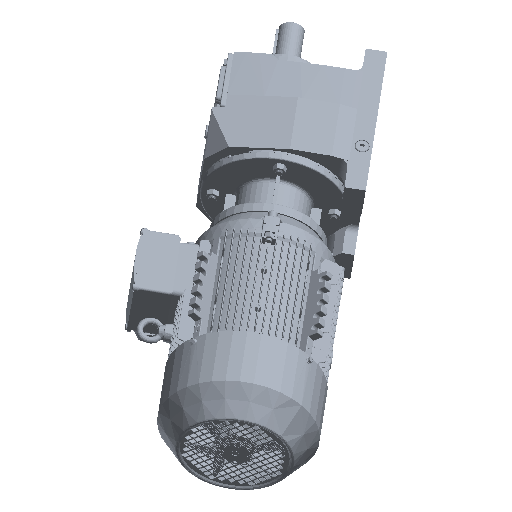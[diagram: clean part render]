
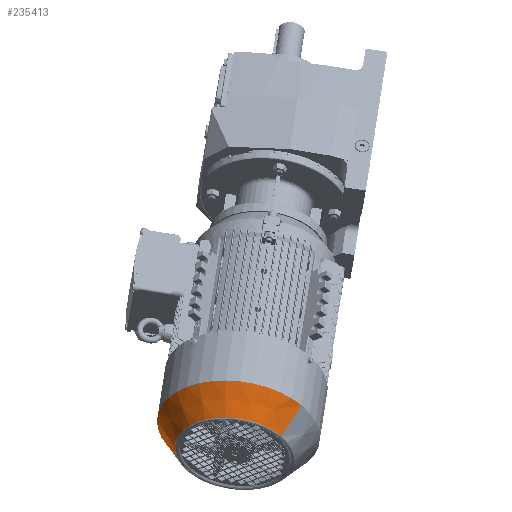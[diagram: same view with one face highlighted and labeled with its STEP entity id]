
A CAD part, left-side view. The second image highlights one B-rep face of the part: STEP entity #235413.
In plain terms, the highlighted conical face has half-angle 35.483 degrees and reference radius 110 mm.
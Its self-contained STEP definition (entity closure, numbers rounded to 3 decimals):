
#6010 = ORIENTED_EDGE ( 'NONE', *, *, #57429, .F. ) ;
#6018 = ORIENTED_EDGE ( 'NONE', *, *, #156030, .F. ) ;
#6051 = ORIENTED_EDGE ( 'NONE', *, *, #156004, .T. ) ;
#9792 = ORIENTED_EDGE ( 'NONE', *, *, #155665, .T. ) ;
#28481 = VERTEX_POINT ( 'NONE', #85668 ) ;
#28488 = VERTEX_POINT ( 'NONE', #85723 ) ;
#28493 = VERTEX_POINT ( 'NONE', #85741 ) ;
#28533 = VERTEX_POINT ( 'NONE', #85776 ) ;
#57429 = EDGE_CURVE ( 'NONE', #28493, #28481, #130844, .T. ) ;
#85668 = CARTESIAN_POINT ( 'NONE',  ( 83., 0., 110. ) ) ;
#85723 = CARTESIAN_POINT ( 'NONE',  ( 123.322, 0., 81.257 ) ) ;
#85741 = CARTESIAN_POINT ( 'NONE',  ( 83., 0., -110. ) ) ;
#85776 = CARTESIAN_POINT ( 'NONE',  ( 123.322, 0., -81.257 ) ) ;
#95278 = AXIS2_PLACEMENT_3D ( 'NONE', #156883, #156723, #156720 ) ;
#111185 = DIRECTION ( 'NONE',  ( -1., 0., 0. ) ) ;
#111200 = DIRECTION ( 'NONE',  ( 0., 0., 1. ) ) ;
#111227 = CARTESIAN_POINT ( 'NONE',  ( 83., 0., 0. ) ) ;
#112248 = CIRCLE ( 'NONE', #186553, 81.257 ) ;
#112609 = LINE ( 'NONE', #119519, #112625 ) ;
#112625 = VECTOR ( 'NONE', #119574, 1000. ) ;
#112672 = LINE ( 'NONE', #120011, #112684 ) ;
#112684 = VECTOR ( 'NONE', #119794, 1000. ) ;
#113257 = DIRECTION ( 'NONE',  ( 0., 0., 1. ) ) ;
#113261 = DIRECTION ( 'NONE',  ( -1., 0., 0. ) ) ;
#113291 = CARTESIAN_POINT ( 'NONE',  ( 123.322, 0., 0. ) ) ;
#119519 = CARTESIAN_POINT ( 'NONE',  ( 83., 0., 110. ) ) ;
#119574 = DIRECTION ( 'NONE',  ( -0.814, 0., 0.58 ) ) ;
#119794 = DIRECTION ( 'NONE',  ( -0.814, 0., -0.58 ) ) ;
#120011 = CARTESIAN_POINT ( 'NONE',  ( 83., 0., -110. ) ) ;
#122202 = FACE_OUTER_BOUND ( 'NONE', #162651, .T. ) ;
#122265 = CONICAL_SURFACE ( 'NONE', #225249, 110., 0.619 ) ;
#130844 = CIRCLE ( 'NONE', #95278, 110. ) ;
#155665 = EDGE_CURVE ( 'NONE', #28533, #28488, #112248, .T. ) ;
#156004 = EDGE_CURVE ( 'NONE', #28488, #28481, #112609, .T. ) ;
#156030 = EDGE_CURVE ( 'NONE', #28533, #28493, #112672, .T. ) ;
#156720 = DIRECTION ( 'NONE',  ( 0., 0., 1. ) ) ;
#156723 = DIRECTION ( 'NONE',  ( -1., 0., 0. ) ) ;
#156883 = CARTESIAN_POINT ( 'NONE',  ( 83., 0., 0. ) ) ;
#162651 = EDGE_LOOP ( 'NONE', ( #6018, #9792, #6051, #6010 ) ) ;
#186553 = AXIS2_PLACEMENT_3D ( 'NONE', #113291, #113261, #113257 ) ;
#225249 = AXIS2_PLACEMENT_3D ( 'NONE', #111227, #111185, #111200 ) ;
#235413 = ADVANCED_FACE ( 'NONE', ( #122202 ), #122265, .T. ) ;
